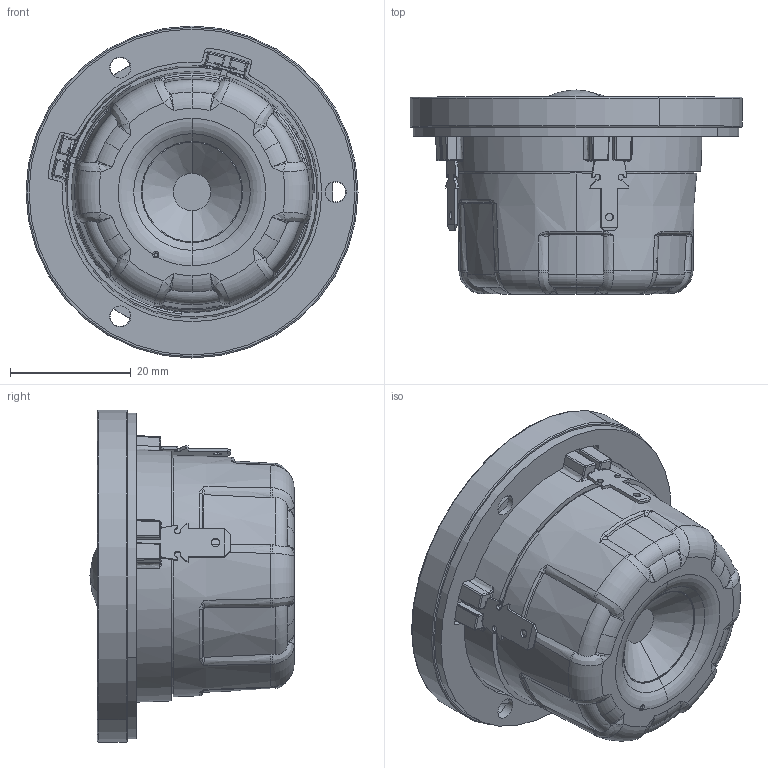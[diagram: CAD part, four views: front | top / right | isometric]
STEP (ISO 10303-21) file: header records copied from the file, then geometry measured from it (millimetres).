
FILE_DESCRIPTION (( 'STEP AP214' ), '1' );
FILE_NAME ('D2004-602200.STEP', '2024-01-03T13:17:28', ( '' ), ( '' ), 'SwSTEP 2.0', 'SolidWorks 2024', '' );
FILE_SCHEMA (( 'AUTOMOTIVE_DESIGN' ));
Length unit declared in the file: millimetre
Products named in the file (1): D2004-602200
Bounding box: 55 x 33.8 x 55 mm (x, y, z)
Volume: 43760.3 mm3; surface area: 11247.6 mm2
Topology: 3 solids, 4 shells, 536 faces, 1441 edges, 866 vertices
Faces by surface type: plane 147, cylinder 144, bspline 117, torus 80, cone 34, sphere 14
Entity records: 19350 total; most frequent: CARTESIAN_POINT 6950, ORIENTED_EDGE 2778, DIRECTION 2432, EDGE_CURVE 1389, AXIS2_PLACEMENT_3D 976, VERTEX_POINT 866, EDGE_LOOP 559, CIRCLE 556
